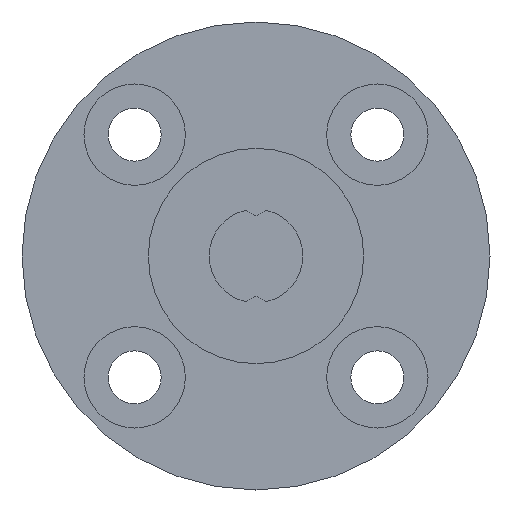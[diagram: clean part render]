
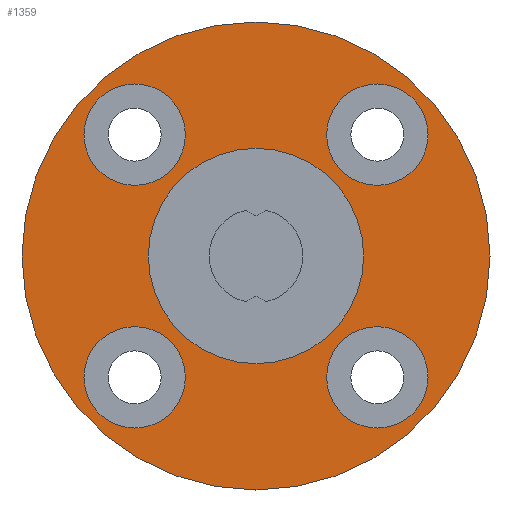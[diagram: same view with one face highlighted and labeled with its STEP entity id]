
A CAD part, left-side view. The second image highlights one B-rep face of the part: STEP entity #1359.
In plain terms, the highlighted planar face has unit normal (-1, 0, 0).
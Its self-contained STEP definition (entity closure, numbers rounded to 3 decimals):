
#357=CARTESIAN_POINT('',(5.65,-7.778,-4.528));
#358=VERTEX_POINT('',#357);
#359=CARTESIAN_POINT('',(5.65,-7.778,-7.778));
#360=DIRECTION('',(1.0,0.0,0.0));
#361=DIRECTION('',(0.0,0.0,1.0));
#362=AXIS2_PLACEMENT_3D('',#359,#360,#361);
#363=CIRCLE('',#362,3.25);
#364=EDGE_CURVE('',#358,#358,#363,.T.);
#467=CARTESIAN_POINT('',(5.65,7.778,-4.528));
#468=VERTEX_POINT('',#467);
#469=CARTESIAN_POINT('',(5.65,7.778,-7.778));
#470=DIRECTION('',(1.0,0.0,0.0));
#471=DIRECTION('',(0.0,0.0,1.0));
#472=AXIS2_PLACEMENT_3D('',#469,#470,#471);
#473=CIRCLE('',#472,3.25);
#474=EDGE_CURVE('',#468,#468,#473,.T.);
#577=CARTESIAN_POINT('',(5.65,7.778,11.028));
#578=VERTEX_POINT('',#577);
#579=CARTESIAN_POINT('',(5.65,7.778,7.778));
#580=DIRECTION('',(1.0,0.0,0.0));
#581=DIRECTION('',(0.0,0.0,1.0));
#582=AXIS2_PLACEMENT_3D('',#579,#580,#581);
#583=CIRCLE('',#582,3.25);
#584=EDGE_CURVE('',#578,#578,#583,.T.);
#687=CARTESIAN_POINT('',(5.65,-7.778,11.028));
#688=VERTEX_POINT('',#687);
#689=CARTESIAN_POINT('',(5.65,-7.778,7.778));
#690=DIRECTION('',(1.0,0.0,0.0));
#691=DIRECTION('',(0.0,0.0,1.0));
#692=AXIS2_PLACEMENT_3D('',#689,#690,#691);
#693=CIRCLE('',#692,3.25);
#694=EDGE_CURVE('',#688,#688,#693,.T.);
#1313=CARTESIAN_POINT('',(5.65,0.0,15.));
#1314=VERTEX_POINT('',#1313);
#1315=CARTESIAN_POINT('',(5.65,0.0,0.));
#1316=DIRECTION('',(-1.0,0.0,0.0));
#1317=DIRECTION('',(0.0,0.0,1.0));
#1318=AXIS2_PLACEMENT_3D('',#1315,#1316,#1317);
#1319=CIRCLE('',#1318,15.);
#1320=EDGE_CURVE('',#1314,#1314,#1319,.T.);
#1328=CARTESIAN_POINT('',(5.65,0.0,10.95));
#1329=DIRECTION('',(-1.0,0.0,0.0));
#1330=DIRECTION('',(0.0,0.0,1.0));
#1331=AXIS2_PLACEMENT_3D('',#1328,#1329,#1330);
#1332=PLANE('',#1331);
#1333=ORIENTED_EDGE('',*,*,#1320,.T.);
#1334=EDGE_LOOP('',(#1333));
#1335=FACE_OUTER_BOUND('',#1334,.T.);
#1336=ORIENTED_EDGE('',*,*,#364,.T.);
#1337=EDGE_LOOP('',(#1336));
#1338=FACE_BOUND('',#1337,.T.);
#1339=ORIENTED_EDGE('',*,*,#474,.T.);
#1340=EDGE_LOOP('',(#1339));
#1341=FACE_BOUND('',#1340,.T.);
#1342=ORIENTED_EDGE('',*,*,#584,.T.);
#1343=EDGE_LOOP('',(#1342));
#1344=FACE_BOUND('',#1343,.T.);
#1345=ORIENTED_EDGE('',*,*,#694,.T.);
#1346=EDGE_LOOP('',(#1345));
#1347=FACE_BOUND('',#1346,.T.);
#1348=CARTESIAN_POINT('',(5.65,0.0,6.9));
#1349=VERTEX_POINT('',#1348);
#1350=CARTESIAN_POINT('',(5.65,0.0,0.));
#1351=DIRECTION('',(-1.0,0.0,0.0));
#1352=DIRECTION('',(0.0,0.0,1.0));
#1353=AXIS2_PLACEMENT_3D('',#1350,#1351,#1352);
#1354=CIRCLE('',#1353,6.9);
#1355=EDGE_CURVE('',#1349,#1349,#1354,.T.);
#1356=ORIENTED_EDGE('',*,*,#1355,.F.);
#1357=EDGE_LOOP('',(#1356));
#1358=FACE_BOUND('',#1357,.T.);
#1359=ADVANCED_FACE('',(#1335,#1338,#1341,#1344,#1347,#1358),#1332,.T.);
